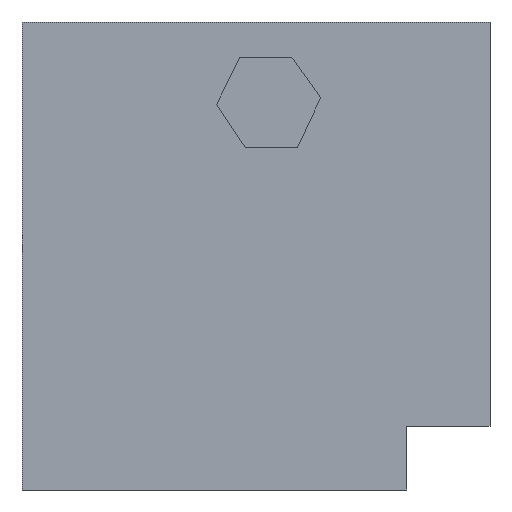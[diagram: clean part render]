
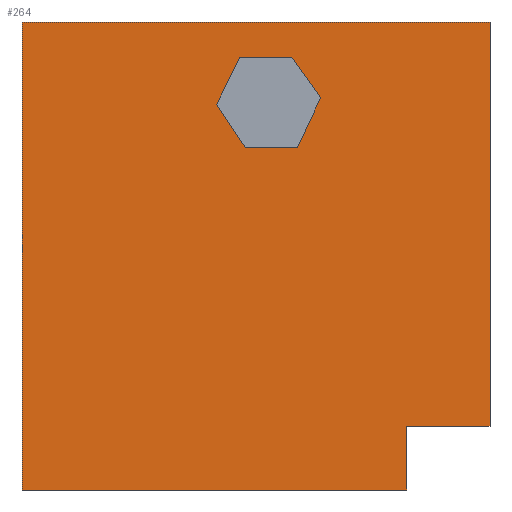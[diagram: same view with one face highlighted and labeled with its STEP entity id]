
A CAD part, left-side view. The second image highlights one B-rep face of the part: STEP entity #264.
In plain terms, the highlighted planar face has unit normal (-1, 0, 0).
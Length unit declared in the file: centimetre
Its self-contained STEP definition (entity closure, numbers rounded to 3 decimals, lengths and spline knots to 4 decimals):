
#23 = FACE_BOUND ( 'NONE', #710, .T. ) ;
#30 = VERTEX_POINT ( 'NONE', #219 ) ;
#34 = LINE ( 'NONE', #892, #448 ) ;
#59 = CARTESIAN_POINT ( 'NONE',  ( 0., 411.5362, 731.5551 ) ) ;
#75 = CARTESIAN_POINT ( 'NONE',  ( 0., 177.9431, 136.5869 ) ) ;
#78 = LINE ( 'NONE', #731, #105 ) ;
#84 = ORIENTED_EDGE ( 'NONE', *, *, #471, .T. ) ;
#93 = VECTOR ( 'NONE', #705, 100. ) ;
#95 = CARTESIAN_POINT ( 'NONE',  ( 0., 0., 1000. ) ) ;
#105 = VECTOR ( 'NONE', #166, 100. ) ;
#112 = EDGE_CURVE ( 'NONE', #406, #739, #349, .T. ) ;
#118 = VERTEX_POINT ( 'NONE', #421 ) ;
#128 = VERTEX_POINT ( 'NONE', #856 ) ;
#129 = ORIENTED_EDGE ( 'NONE', *, *, #112, .T. ) ;
#147 = AXIS2_PLACEMENT_3D ( 'NONE', #432, #507, #880 ) ;
#162 = LINE ( 'NONE', #895, #707 ) ;
#166 = DIRECTION ( 'NONE',  ( 0., -1., 0. ) ) ;
#173 = VERTEX_POINT ( 'NONE', #95 ) ;
#175 = CARTESIAN_POINT ( 'NONE',  ( 0., 423.2238, 924.2292 ) ) ;
#183 = DIRECTION ( 'NONE',  ( 0., 0., -1. ) ) ;
#185 = LINE ( 'NONE', #456, #480 ) ;
#190 = LINE ( 'NONE', #251, #853 ) ;
#208 = ORIENTED_EDGE ( 'NONE', *, *, #682, .F. ) ;
#212 = ORIENTED_EDGE ( 'NONE', *, *, #339, .T. ) ;
#219 = CARTESIAN_POINT ( 'NONE',  ( 0., 361.7598, 838.0139 ) ) ;
#221 = EDGE_CURVE ( 'NONE', #278, #870, #162, .T. ) ;
#223 = CARTESIAN_POINT ( 'NONE',  ( 0., 522.7766, 731.5551 ) ) ;
#227 = VECTOR ( 'NONE', #234, 100. ) ;
#234 = DIRECTION ( 'NONE',  ( 0., 0., -1. ) ) ;
#242 = VECTOR ( 'NONE', #640, 100. ) ;
#246 = CARTESIAN_POINT ( 'NONE',  ( 0., 1000., 0. ) ) ;
#251 = CARTESIAN_POINT ( 'NONE',  ( 0., 584.2406, 824.5183 ) ) ;
#257 = ORIENTED_EDGE ( 'NONE', *, *, #907, .F. ) ;
#258 = DIRECTION ( 'NONE',  ( 0., -1., 0. ) ) ;
#264 = ADVANCED_FACE ( 'NONE', ( #23, #296 ), #806, .F. ) ;
#269 = CARTESIAN_POINT ( 'NONE',  ( 0., 1000., 1000. ) ) ;
#278 = VERTEX_POINT ( 'NONE', #590 ) ;
#281 = LINE ( 'NONE', #336, #894 ) ;
#291 = ORIENTED_EDGE ( 'NONE', *, *, #562, .F. ) ;
#296 = FACE_OUTER_BOUND ( 'NONE', #515, .T. ) ;
#312 = VERTEX_POINT ( 'NONE', #796 ) ;
#328 = ORIENTED_EDGE ( 'NONE', *, *, #504, .F. ) ;
#336 = CARTESIAN_POINT ( 'NONE',  ( 0., 361.7598, 838.0139 ) ) ;
#337 = ORIENTED_EDGE ( 'NONE', *, *, #762, .F. ) ;
#339 = EDGE_CURVE ( 'NONE', #739, #118, #445, .T. ) ;
#344 = VERTEX_POINT ( 'NONE', #223 ) ;
#348 = ORIENTED_EDGE ( 'NONE', *, *, #545, .F. ) ;
#349 = LINE ( 'NONE', #855, #242 ) ;
#354 = LINE ( 'NONE', #59, #93 ) ;
#376 = EDGE_CURVE ( 'NONE', #344, #780, #78, .T. ) ;
#392 = CARTESIAN_POINT ( 'NONE',  ( 0., 177.9431, 0. ) ) ;
#406 = VERTEX_POINT ( 'NONE', #392 ) ;
#408 = VERTEX_POINT ( 'NONE', #175 ) ;
#416 = DIRECTION ( 'NONE',  ( 0., 0.58, 0.814 ) ) ;
#421 = CARTESIAN_POINT ( 'NONE',  ( 0., 0., 136.5869 ) ) ;
#430 = ORIENTED_EDGE ( 'NONE', *, *, #221, .T. ) ;
#432 = CARTESIAN_POINT ( 'NONE',  ( 0., 1000., 1000. ) ) ;
#445 = LINE ( 'NONE', #664, #752 ) ;
#448 = VECTOR ( 'NONE', #258, 100. ) ;
#456 = CARTESIAN_POINT ( 'NONE',  ( 0., 534.4642, 924.2292 ) ) ;
#471 = EDGE_CURVE ( 'NONE', #870, #406, #34, .T. ) ;
#480 = VECTOR ( 'NONE', #666, 100. ) ;
#504 = EDGE_CURVE ( 'NONE', #128, #344, #190, .T. ) ;
#507 = DIRECTION ( 'NONE',  ( 1., 0., 0. ) ) ;
#515 = EDGE_LOOP ( 'NONE', ( #129, #212, #337, #845, #430, #84 ) ) ;
#545 = EDGE_CURVE ( 'NONE', #30, #408, #281, .T. ) ;
#558 = VECTOR ( 'NONE', #625, 100. ) ;
#562 = EDGE_CURVE ( 'NONE', #408, #312, #838, .T. ) ;
#576 = LINE ( 'NONE', #594, #227 ) ;
#590 = CARTESIAN_POINT ( 'NONE',  ( 0., 1000., 1000. ) ) ;
#594 = CARTESIAN_POINT ( 'NONE',  ( 0., 0., 1000. ) ) ;
#625 = DIRECTION ( 'NONE',  ( 0., 1., 0. ) ) ;
#628 = LINE ( 'NONE', #269, #687 ) ;
#640 = DIRECTION ( 'NONE',  ( 0., 0., 1. ) ) ;
#655 = DIRECTION ( 'NONE',  ( 0., -1., 0. ) ) ;
#656 = ORIENTED_EDGE ( 'NONE', *, *, #376, .F. ) ;
#664 = CARTESIAN_POINT ( 'NONE',  ( 0., 0., 136.5869 ) ) ;
#666 = DIRECTION ( 'NONE',  ( 0., 0.447, -0.895 ) ) ;
#682 = EDGE_CURVE ( 'NONE', #780, #30, #354, .T. ) ;
#687 = VECTOR ( 'NONE', #918, 100. ) ;
#694 = EDGE_CURVE ( 'NONE', #278, #173, #628, .T. ) ;
#705 = DIRECTION ( 'NONE',  ( 0., -0.424, 0.906 ) ) ;
#707 = VECTOR ( 'NONE', #183, 100. ) ;
#710 = EDGE_LOOP ( 'NONE', ( #257, #291, #348, #208, #656, #328 ) ) ;
#731 = CARTESIAN_POINT ( 'NONE',  ( 0., 522.7766, 731.5551 ) ) ;
#739 = VERTEX_POINT ( 'NONE', #75 ) ;
#752 = VECTOR ( 'NONE', #655, 100. ) ;
#762 = EDGE_CURVE ( 'NONE', #173, #118, #576, .T. ) ;
#780 = VERTEX_POINT ( 'NONE', #805 ) ;
#796 = CARTESIAN_POINT ( 'NONE',  ( 0., 534.4642, 924.2292 ) ) ;
#805 = CARTESIAN_POINT ( 'NONE',  ( 0., 411.5362, 731.5551 ) ) ;
#806 = PLANE ( 'NONE',  #147 ) ;
#838 = LINE ( 'NONE', #846, #558 ) ;
#845 = ORIENTED_EDGE ( 'NONE', *, *, #694, .F. ) ;
#846 = CARTESIAN_POINT ( 'NONE',  ( 0., 423.2238, 924.2292 ) ) ;
#853 = VECTOR ( 'NONE', #888, 100. ) ;
#855 = CARTESIAN_POINT ( 'NONE',  ( 0., 177.9431, 0. ) ) ;
#856 = CARTESIAN_POINT ( 'NONE',  ( 0., 584.2406, 824.5183 ) ) ;
#870 = VERTEX_POINT ( 'NONE', #246 ) ;
#880 = DIRECTION ( 'NONE',  ( 0., 0., -1. ) ) ;
#888 = DIRECTION ( 'NONE',  ( 0., -0.552, -0.834 ) ) ;
#892 = CARTESIAN_POINT ( 'NONE',  ( 0., 1000., 0. ) ) ;
#894 = VECTOR ( 'NONE', #416, 100. ) ;
#895 = CARTESIAN_POINT ( 'NONE',  ( 0., 1000., 1000. ) ) ;
#907 = EDGE_CURVE ( 'NONE', #312, #128, #185, .T. ) ;
#918 = DIRECTION ( 'NONE',  ( 0., -1., 0. ) ) ;
